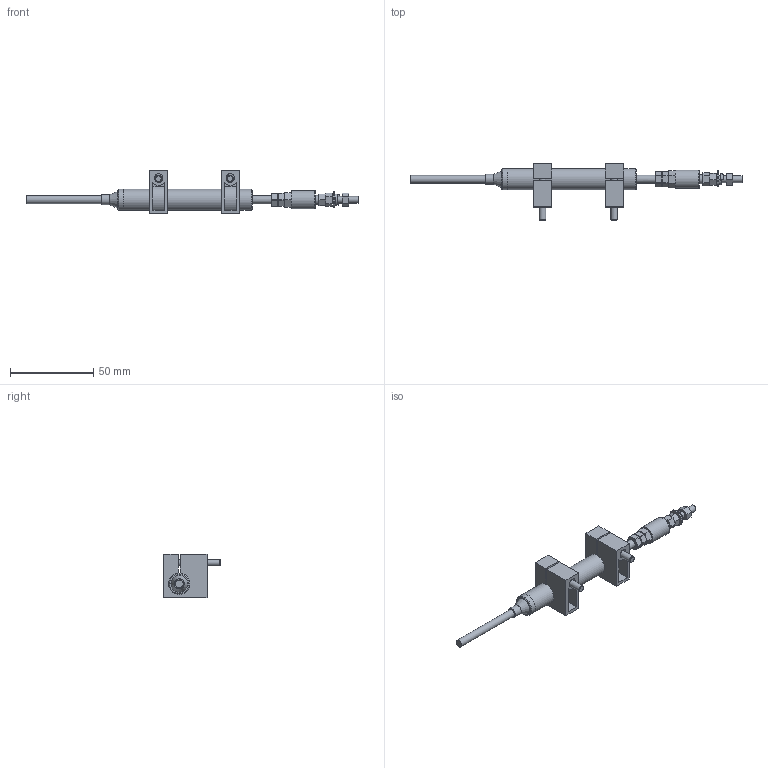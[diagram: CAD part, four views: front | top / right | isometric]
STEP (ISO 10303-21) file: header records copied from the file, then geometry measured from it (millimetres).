
FILE_DESCRIPTION(/* description */ (''),/* implementation_level */ '2;1');
FILE_NAME(/* name */ 'KPM12-25MM.stp',/* time_stamp */ '2019-11-28T10:16:53+08:00',/* author */ (''),/* organization */ (''),/* preprocessor_version */ 'ST-DEVELOPER v14',/* originating_system */ 'SIEMENS PLM Software NX 8.0',/* authorisation */ '');
FILE_SCHEMA (('CONFIG_CONTROL_DESIGN'));
Length unit declared in the file: millimetre
Products named in the file (1): KPM12-25MM
Bounding box: 199.1 x 34 x 26 mm (x, y, z)
Volume: 19804.9 mm3; surface area: 23737.4 mm2
Topology: 21 solids, 22 shells, 327 faces, 783 edges, 525 vertices
Faces by surface type: plane 180, cylinder 102, torus 24, cone 11, bspline 10
Full cylindrical faces by diameter (mm): 2.52 x1, 2.88 x2, 3.8 x1, 4 x5, 4.101 x5, 4.6 x2, 4.8 x19, 5 x5, 5.2 x1, 6 x2, 7 x2, 7.5 x1, 8 x2, 9.15 x1, 9.45 x1, 9.7 x1, 11 x4, 11.45 x2, 12.7 x3
Entity records: 21625 total; most frequent: CARTESIAN_POINT 14804, DIRECTION 1320, ORIENTED_EDGE 1304, EDGE_CURVE 652, AXIS2_PLACEMENT_3D 479, VERTEX_POINT 466, EDGE_LOOP 420, LINE 362
